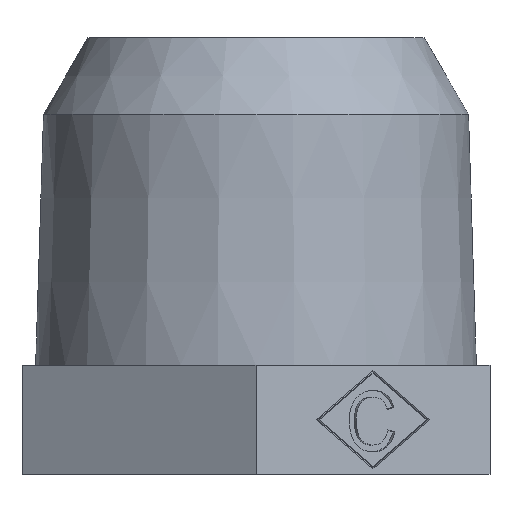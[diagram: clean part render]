
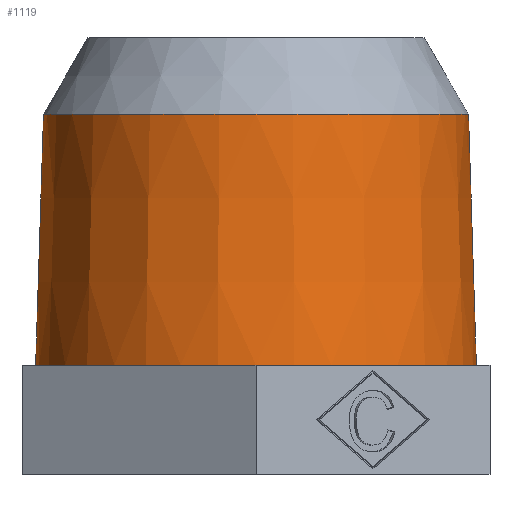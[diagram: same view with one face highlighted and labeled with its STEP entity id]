
A CAD part, front view. The second image highlights one B-rep face of the part: STEP entity #1119.
In plain terms, the highlighted conical face has half-angle 1.8 degrees and reference radius 11.3 mm.
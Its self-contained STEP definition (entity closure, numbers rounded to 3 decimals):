
#1088=CARTESIAN_POINT('',(10.896,0.,18.462));
#1089=VERTEX_POINT('',#1088);
#1090=CARTESIAN_POINT('',(0.0,0.,18.462));
#1091=DIRECTION('',(0.0,0.0,1.0));
#1092=DIRECTION('',(-1.0,0.0,0.0));
#1093=AXIS2_PLACEMENT_3D('',#1090,#1091,#1092);
#1094=CIRCLE('',#1093,10.896);
#1095=EDGE_CURVE('',#1089,#1089,#1094,.T.);
#1100=CARTESIAN_POINT('',(0.0,0.0,5.6));
#1101=DIRECTION('',(0.0,0.0,-1.0));
#1102=DIRECTION('',(-1.0,0.0,0.0));
#1103=AXIS2_PLACEMENT_3D('',#1100,#1101,#1102);
#1104=CONICAL_SURFACE('',#1103,11.3,1.8);
#1105=CARTESIAN_POINT('',(11.3,0.,5.6));
#1106=VERTEX_POINT('',#1105);
#1107=CARTESIAN_POINT('',(0.0,0.0,5.6));
#1108=DIRECTION('',(0.0,0.0,-1.0));
#1109=DIRECTION('',(-1.0,0.0,0.0));
#1110=AXIS2_PLACEMENT_3D('',#1107,#1108,#1109);
#1111=CIRCLE('',#1110,11.3);
#1112=EDGE_CURVE('',#1106,#1106,#1111,.T.);
#1113=ORIENTED_EDGE('',*,*,#1112,.F.);
#1114=EDGE_LOOP('',(#1113));
#1115=FACE_OUTER_BOUND('',#1114,.T.);
#1116=ORIENTED_EDGE('',*,*,#1095,.F.);
#1117=EDGE_LOOP('',(#1116));
#1118=FACE_BOUND('',#1117,.T.);
#1119=ADVANCED_FACE('',(#1115,#1118),#1104,.T.);
